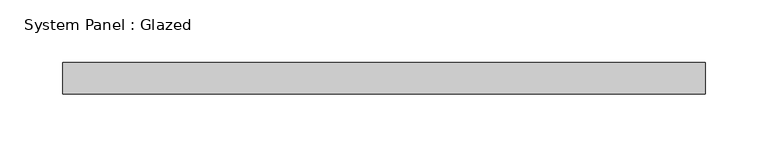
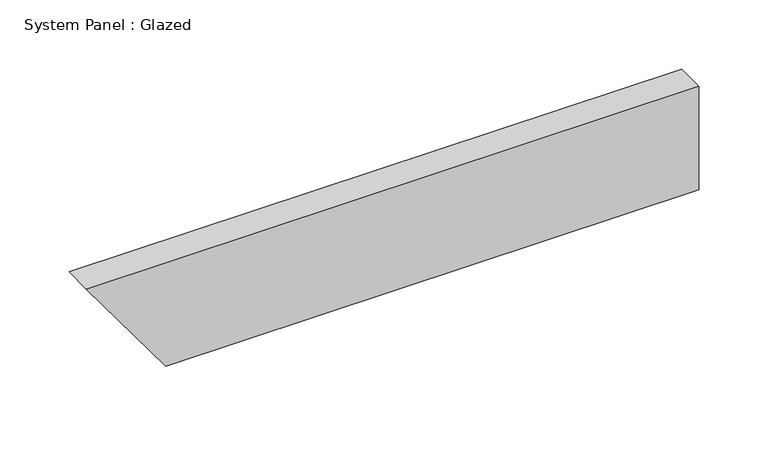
"""IFC4 building model written with IfcOpenShell, lengths in millimetres: plate geometry, System Panel : Glazed."""

from ifc_helpers import new_model, si_unit, frame, origin, place, context, project, spatial, polyline, outline, extrude, source, transform, mapped, element, save


def system_panel_glazed_1dd5f400(model_context):
    return source(origin(), model_context, "Body", "SweptSolid", [
        extrude(outline(polyline([(0.0, -189.4784274), (0.0, 255.7566494), (91.2241464, 255.7566494), (91.2241464, -255.7566494), (0.0, -189.4784274)])), frame((0.0, 24.5, 0.0), z_axis=(0.0, 1.0, 0.0), x_axis=(0.0, 0.0, 1.0)), (0.0, 0.0, 1.0), 25.0),
    ])


if __name__ == "__main__":
    model = new_model("IFC4")
    model_context = context("Model", 3, world=origin())
    ifc_project = project(units=[si_unit("LENGTHUNIT", "METRE", prefix="MILLI")], contexts=[model_context])
    site = spatial("IfcSite", under=ifc_project)
    building = spatial("IfcBuilding", under=site)
    placement = place(None, origin())
    system_panel_glazed_shape = system_panel_glazed_1dd5f400(model_context)
    element("IfcPlate", 1, ObjectType="System Panel : Glazed", at=placement, inside=building, context=model_context, shape_type="MappedRepresentation", body=[
        mapped(system_panel_glazed_shape, transform((0.0, 0.0, 0.0), x_axis=(1.0, 0.0, 0.0), y_axis=(0.0, 1.0, 0.0), z_axis=(0.0, 0.0, 1.0))),
    ])
    save(model, "model.ifc")
